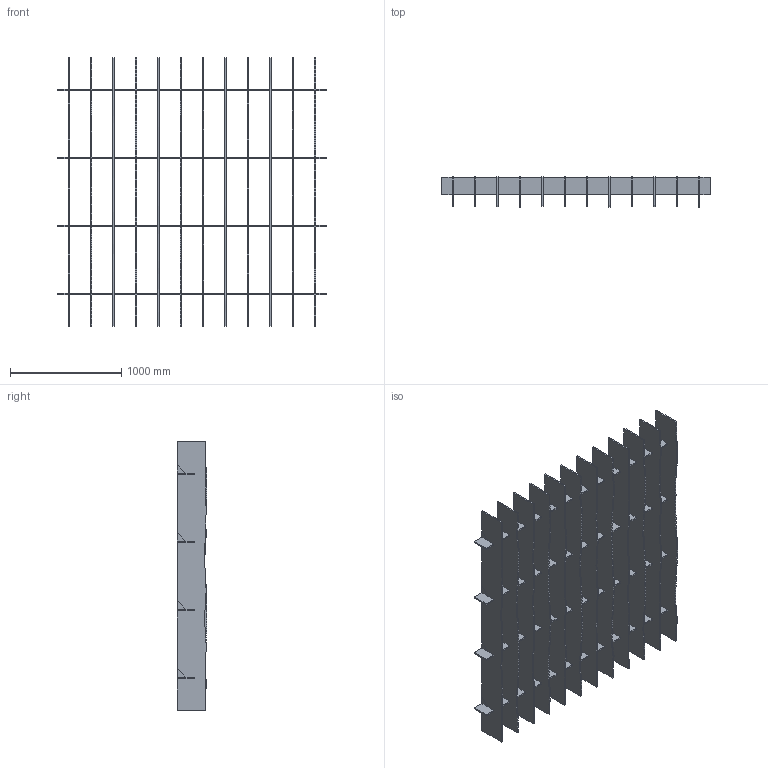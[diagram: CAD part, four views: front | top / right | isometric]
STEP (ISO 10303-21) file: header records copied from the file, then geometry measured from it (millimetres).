
FILE_DESCRIPTION(/* description */ (''),/* implementation_level */ '2;1');
FILE_NAME(/* name */ 'Y:\Design and Engineering\MaterialLogiq\CAD ASSETS\MASTER\BAFFLE\WEB ASSETS\PET BAFFLE_8x8_12FIN_10_JITTER.stp',/* time_stamp */ '2023-11-17T12:52:33-06:00',/* author */ ('Grant Baker'),/* organization */ (''),/* preprocessor_version */ 'ST-DEVELOPER v19',/* originating_system */ 'Autodesk Inventor 2023',/* authorisation */ '');
FILE_SCHEMA (('AUTOMOTIVE_DESIGN { 1 0 10303 214 3 1 1 }'));
Length unit declared in the file: inch
Products named in the file (6): PET BAFFLE_PARAMETRIC_11.02.2023; PET BAFFLE_BEAM; PET BAFFLE_FIN_96in_JITTER-1; PET BAFFLE_FIN_96in_JITTER-3; PET BAFFLE_FIN_96in_JITTER-2; PET BAFFLE_FIN_96in_JITTER-4
Assembly tree (16 placements, depth 2):
  PET BAFFLE_PARAMETRIC_11.02.2023
    PET BAFFLE_BEAM  x4
    PET BAFFLE_FIN_96in_JITTER-1  x3
    PET BAFFLE_FIN_96in_JITTER-3  x3
    PET BAFFLE_FIN_96in_JITTER-2  x3
    PET BAFFLE_FIN_96in_JITTER-4  x3
Bounding box: 2413 x 267.41 x 2413 mm (x, y, z)
Volume: 107210640.1 mm3; surface area: 18849059.9 mm2
Topology: 64 solids, 64 shells, 2070 faces, 5826 edges, 3884 vertices
Faces by surface type: plane 2028, bspline 42
Entity records: 23369 total; most frequent: CARTESIAN_POINT 6234, ORIENTED_EDGE 3684, DIRECTION 3142, EDGE_CURVE 1842, LINE 1814, VECTOR 1814, VERTEX_POINT 1228, AXIS2_PLACEMENT_3D 664
